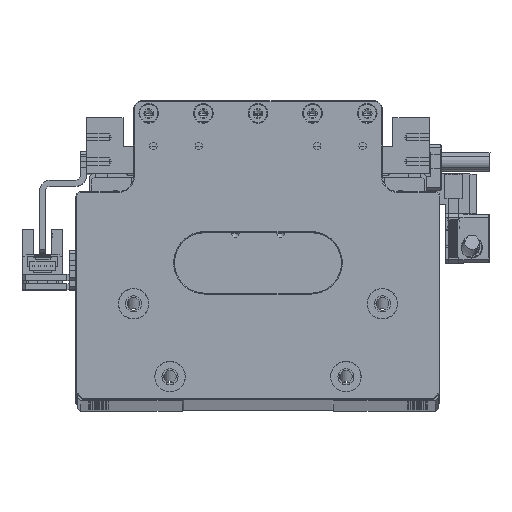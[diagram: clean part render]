
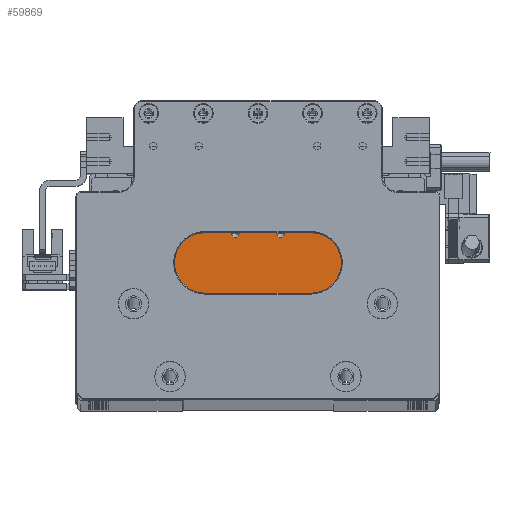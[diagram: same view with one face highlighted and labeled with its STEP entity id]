
A CAD part, top view. The second image highlights one B-rep face of the part: STEP entity #59869.
In plain terms, the highlighted planar face has unit normal (0, 0, 1).
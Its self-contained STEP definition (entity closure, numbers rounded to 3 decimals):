
#152 = LINE ( 'NONE', #21028, #71122 ) ;
#452 = CARTESIAN_POINT ( 'NONE',  ( 13.868, -17.023, 340. ) ) ;
#803 = ORIENTED_EDGE ( 'NONE', *, *, #60100, .T. ) ;
#1049 = FACE_BOUND ( 'NONE', #53501, .T. ) ;
#2549 = CIRCLE ( 'NONE', #23290, 1.25 ) ;
#3206 = EDGE_CURVE ( 'NONE', #124742, #20303, #11998, .T. ) ;
#3400 = CARTESIAN_POINT ( 'NONE',  ( -10.882, -17.023, 340. ) ) ;
#4203 = FACE_BOUND ( 'NONE', #8216, .T. ) ;
#5211 = VERTEX_POINT ( 'NONE', #114178 ) ;
#5497 = CARTESIAN_POINT ( 'NONE',  ( -34.432, -9.023, 340. ) ) ;
#6935 = DIRECTION ( 'NONE',  ( 0., 1., 0. ) ) ;
#7069 = EDGE_CURVE ( 'NONE', #39710, #37825, #46081, .T. ) ;
#7264 = DIRECTION ( 'NONE',  ( 0., 0., -1. ) ) ;
#8216 = EDGE_LOOP ( 'NONE', ( #109325, #110918 ) ) ;
#8453 = VECTOR ( 'NONE', #52462, 1000. ) ;
#9079 = PLANE ( 'NONE',  #46036 ) ;
#11998 = LINE ( 'NONE', #45425, #35742 ) ;
#16945 = EDGE_CURVE ( 'NONE', #84924, #39710, #105964, .T. ) ;
#19172 = ORIENTED_EDGE ( 'NONE', *, *, #80876, .T. ) ;
#19275 = VECTOR ( 'NONE', #65088, 1000. ) ;
#20303 = VERTEX_POINT ( 'NONE', #452 ) ;
#20653 = CARTESIAN_POINT ( 'NONE',  ( 4.118, -17.023, 340. ) ) ;
#21028 = CARTESIAN_POINT ( 'NONE',  ( 25.168, -9.023, 340. ) ) ;
#21127 = DIRECTION ( 'NONE',  ( 0., 0., -1. ) ) ;
#23290 = AXIS2_PLACEMENT_3D ( 'NONE', #84868, #24552, #95008 ) ;
#24408 = ORIENTED_EDGE ( 'NONE', *, *, #3206, .T. ) ;
#24552 = DIRECTION ( 'NONE',  ( 0., 0., -1. ) ) ;
#26129 = ORIENTED_EDGE ( 'NONE', *, *, #83378, .T. ) ;
#32747 = ORIENTED_EDGE ( 'NONE', *, *, #109245, .T. ) ;
#35742 = VECTOR ( 'NONE', #55558, 1000. ) ;
#37261 = CIRCLE ( 'NONE', #93116, 1.25 ) ;
#37825 = VERTEX_POINT ( 'NONE', #129897 ) ;
#39562 = DIRECTION ( 'NONE',  ( 1., 0., 0. ) ) ;
#39710 = VERTEX_POINT ( 'NONE', #117147 ) ;
#42426 = LINE ( 'NONE', #81319, #96055 ) ;
#42815 = VERTEX_POINT ( 'NONE', #125343 ) ;
#44099 = DIRECTION ( 'NONE',  ( 0., 0., -1. ) ) ;
#45242 = ORIENTED_EDGE ( 'NONE', *, *, #16945, .T. ) ;
#45425 = CARTESIAN_POINT ( 'NONE',  ( -4.632, -17.023, 340. ) ) ;
#45875 = EDGE_CURVE ( 'NONE', #5211, #124742, #152, .T. ) ;
#46036 = AXIS2_PLACEMENT_3D ( 'NONE', #89828, #99918, #39562 ) ;
#46081 = LINE ( 'NONE', #115457, #19275 ) ;
#47899 = VERTEX_POINT ( 'NONE', #20653 ) ;
#48000 = CIRCLE ( 'NONE', #91575, 1.25 ) ;
#51430 = DIRECTION ( 'NONE',  ( 0., 1., 0. ) ) ;
#52462 = DIRECTION ( 'NONE',  ( 1., 0., 0. ) ) ;
#53501 = EDGE_LOOP ( 'NONE', ( #803, #19172 ) ) ;
#55558 = DIRECTION ( 'NONE',  ( -1., 0., 0. ) ) ;
#57318 = CARTESIAN_POINT ( 'NONE',  ( -13.382, -17.023, 340. ) ) ;
#59869 = ADVANCED_FACE ( 'NONE', ( #108430, #4203, #1049 ), #9079, .T. ) ;
#60100 = EDGE_CURVE ( 'NONE', #111487, #108765, #2549, .T. ) ;
#62118 = LINE ( 'NONE', #123571, #8453 ) ;
#65088 = DIRECTION ( 'NONE',  ( -1., 0., 0. ) ) ;
#67340 = EDGE_CURVE ( 'NONE', #42815, #84924, #42426, .T. ) ;
#67668 = CARTESIAN_POINT ( 'NONE',  ( -12.132, -17.023, 340. ) ) ;
#68662 = VECTOR ( 'NONE', #116720, 1000. ) ;
#69004 = EDGE_CURVE ( 'NONE', #47899, #95261, #37261, .T. ) ;
#70939 = EDGE_CURVE ( 'NONE', #95261, #47899, #48000, .T. ) ;
#71122 = VECTOR ( 'NONE', #51430, 1000. ) ;
#72281 = VERTEX_POINT ( 'NONE', #123736 ) ;
#77395 = DIRECTION ( 'NONE',  ( 0., -1., 0. ) ) ;
#77798 = DIRECTION ( 'NONE',  ( 1., 0., 0. ) ) ;
#78969 = AXIS2_PLACEMENT_3D ( 'NONE', #67668, #7264, #77798 ) ;
#80876 = EDGE_CURVE ( 'NONE', #108765, #111487, #91358, .T. ) ;
#81319 = CARTESIAN_POINT ( 'NONE',  ( -4.632, -9.223, 340. ) ) ;
#81481 = CARTESIAN_POINT ( 'NONE',  ( 2.868, -17.023, 340. ) ) ;
#82657 = CARTESIAN_POINT ( 'NONE',  ( 25.168, -17.023, 340. ) ) ;
#83378 = EDGE_CURVE ( 'NONE', #37825, #72281, #95547, .T. ) ;
#83617 = ORIENTED_EDGE ( 'NONE', *, *, #45875, .T. ) ;
#84868 = CARTESIAN_POINT ( 'NONE',  ( -12.132, -17.023, 340. ) ) ;
#84924 = VERTEX_POINT ( 'NONE', #87089 ) ;
#87089 = CARTESIAN_POINT ( 'NONE',  ( -23.132, -9.223, 340. ) ) ;
#89828 = CARTESIAN_POINT ( 'NONE',  ( -4.632, -9.023, 340. ) ) ;
#91145 = EDGE_CURVE ( 'NONE', #72281, #5211, #62118, .T. ) ;
#91358 = CIRCLE ( 'NONE', #78969, 1.25 ) ;
#91482 = DIRECTION ( 'NONE',  ( -1., 0., 0. ) ) ;
#91575 = AXIS2_PLACEMENT_3D ( 'NONE', #104510, #44099, #114709 ) ;
#91627 = DIRECTION ( 'NONE',  ( 1., 0., 0. ) ) ;
#93116 = AXIS2_PLACEMENT_3D ( 'NONE', #81481, #21127, #91627 ) ;
#95008 = DIRECTION ( 'NONE',  ( 1., 0., 0. ) ) ;
#95261 = VERTEX_POINT ( 'NONE', #107892 ) ;
#95547 = LINE ( 'NONE', #5497, #68662 ) ;
#96055 = VECTOR ( 'NONE', #91482, 1000. ) ;
#96445 = VECTOR ( 'NONE', #77395, 1000. ) ;
#99918 = DIRECTION ( 'NONE',  ( 0., 0., 1. ) ) ;
#104510 = CARTESIAN_POINT ( 'NONE',  ( 2.868, -17.023, 340. ) ) ;
#104804 = ORIENTED_EDGE ( 'NONE', *, *, #67340, .T. ) ;
#105964 = LINE ( 'NONE', #127847, #96445 ) ;
#107566 = CARTESIAN_POINT ( 'NONE',  ( 13.868, -9.023, 340. ) ) ;
#107892 = CARTESIAN_POINT ( 'NONE',  ( 1.618, -17.023, 340. ) ) ;
#108430 = FACE_OUTER_BOUND ( 'NONE', #117378, .T. ) ;
#108765 = VERTEX_POINT ( 'NONE', #57318 ) ;
#109245 = EDGE_CURVE ( 'NONE', #20303, #42815, #129354, .T. ) ;
#109325 = ORIENTED_EDGE ( 'NONE', *, *, #69004, .T. ) ;
#110918 = ORIENTED_EDGE ( 'NONE', *, *, #70939, .T. ) ;
#111487 = VERTEX_POINT ( 'NONE', #3400 ) ;
#114178 = CARTESIAN_POINT ( 'NONE',  ( 25.168, -49.023, 340. ) ) ;
#114709 = DIRECTION ( 'NONE',  ( 1., 0., 0. ) ) ;
#115457 = CARTESIAN_POINT ( 'NONE',  ( -4.632, -17.023, 340. ) ) ;
#116720 = DIRECTION ( 'NONE',  ( 0., -1., 0. ) ) ;
#116816 = ORIENTED_EDGE ( 'NONE', *, *, #91145, .T. ) ;
#117147 = CARTESIAN_POINT ( 'NONE',  ( -23.132, -17.023, 340. ) ) ;
#117378 = EDGE_LOOP ( 'NONE', ( #104804, #45242, #129151, #26129, #116816, #83617, #24408, #32747 ) ) ;
#123032 = VECTOR ( 'NONE', #6935, 1000. ) ;
#123571 = CARTESIAN_POINT ( 'NONE',  ( -34.632, -49.023, 340. ) ) ;
#123736 = CARTESIAN_POINT ( 'NONE',  ( -34.432, -49.023, 340. ) ) ;
#124742 = VERTEX_POINT ( 'NONE', #82657 ) ;
#125343 = CARTESIAN_POINT ( 'NONE',  ( 13.868, -9.223, 340. ) ) ;
#127847 = CARTESIAN_POINT ( 'NONE',  ( -23.132, -9.023, 340. ) ) ;
#129151 = ORIENTED_EDGE ( 'NONE', *, *, #7069, .T. ) ;
#129354 = LINE ( 'NONE', #107566, #123032 ) ;
#129897 = CARTESIAN_POINT ( 'NONE',  ( -34.432, -17.023, 340. ) ) ;
